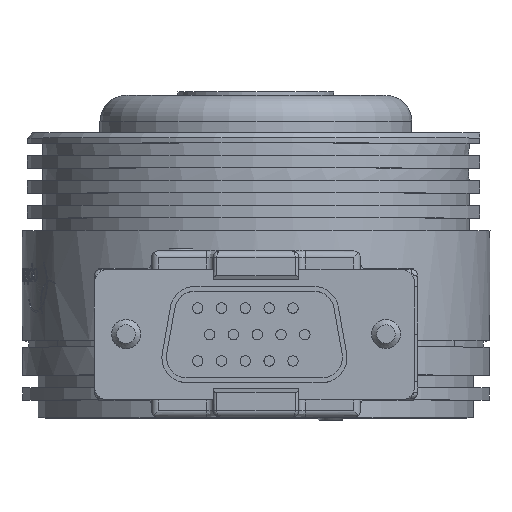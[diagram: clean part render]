
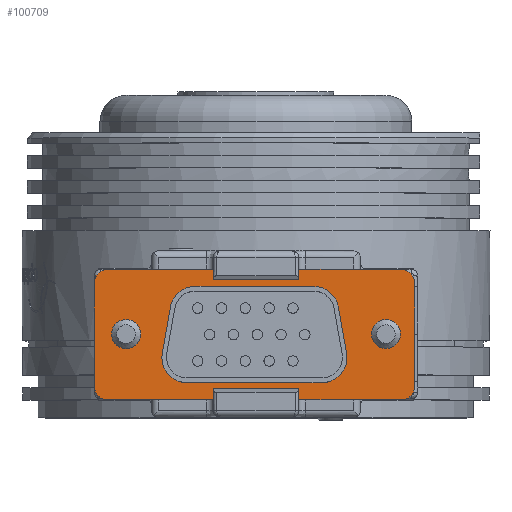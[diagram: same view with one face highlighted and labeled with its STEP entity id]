
A CAD part, top view. The second image highlights one B-rep face of the part: STEP entity #100709.
In plain terms, the highlighted planar face has unit normal (0, 0, 1).
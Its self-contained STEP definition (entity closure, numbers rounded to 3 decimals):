
#235 = VERTEX_POINT ( 'NONE', #101416 ) ;
#1914 = LINE ( 'NONE', #43533, #99622 ) ;
#2619 = CIRCLE ( 'NONE', #16414, 2.4 ) ;
#3777 = DIRECTION ( 'NONE',  ( 0., 0., -1. ) ) ;
#4313 = CIRCLE ( 'NONE', #26731, 1.3 ) ;
#4397 = LINE ( 'NONE', #70820, #27769 ) ;
#4622 = ORIENTED_EDGE ( 'NONE', *, *, #35129, .T. ) ;
#4883 = CARTESIAN_POINT ( 'NONE',  ( -15.405, -4.975, 0.8 ) ) ;
#5434 = DIRECTION ( 'NONE',  ( 0., 0., -1. ) ) ;
#5447 = CARTESIAN_POINT ( 'NONE',  ( 0., 6.275, 0.8 ) ) ;
#5982 = LINE ( 'NONE', #5447, #79830 ) ;
#6634 = VECTOR ( 'NONE', #73743, 1000. ) ;
#6979 = AXIS2_PLACEMENT_3D ( 'NONE', #91094, #106787, #73224 ) ;
#7829 = LINE ( 'NONE', #14857, #6634 ) ;
#9181 = CARTESIAN_POINT ( 'NONE',  ( 6.5, 2.22, 0.8 ) ) ;
#9986 = EDGE_CURVE ( 'NONE', #24621, #17582, #93156, .T. ) ;
#10227 = EDGE_CURVE ( 'NONE', #11348, #103076, #49943, .T. ) ;
#10448 = DIRECTION ( 'NONE',  ( 0., 1., 0. ) ) ;
#11066 = ORIENTED_EDGE ( 'NONE', *, *, #29441, .T. ) ;
#11348 = VERTEX_POINT ( 'NONE', #4883 ) ;
#11369 = CARTESIAN_POINT ( 'NONE',  ( 8.081, -2.637, 0.8 ) ) ;
#12911 = VERTEX_POINT ( 'NONE', #102959 ) ;
#14067 = VERTEX_POINT ( 'NONE', #11369 ) ;
#14857 = CARTESIAN_POINT ( 'NONE',  ( 0., 4.62, 0.8 ) ) ;
#16414 = AXIS2_PLACEMENT_3D ( 'NONE', #76803, #5434, #80532 ) ;
#17582 = VERTEX_POINT ( 'NONE', #34821 ) ;
#18145 = CARTESIAN_POINT ( 'NONE',  ( 15.405, 4.975, 0.8 ) ) ;
#19004 = DIRECTION ( 'NONE',  ( 0., 0., 1. ) ) ;
#20330 = VERTEX_POINT ( 'NONE', #39521 ) ;
#21964 = CARTESIAN_POINT ( 'NONE',  ( 14.105, 6.275, 0.8 ) ) ;
#23611 = DIRECTION ( 'NONE',  ( 1., 0., 0. ) ) ;
#23835 = LINE ( 'NONE', #89319, #77780 ) ;
#23884 = CARTESIAN_POINT ( 'NONE',  ( -14.105, 6.275, 0.8 ) ) ;
#24621 = VERTEX_POINT ( 'NONE', #74321 ) ;
#26731 = AXIS2_PLACEMENT_3D ( 'NONE', #98828, #39941, #23611 ) ;
#27769 = VECTOR ( 'NONE', #37423, 1000. ) ;
#28712 = CIRCLE ( 'NONE', #82254, 2.4 ) ;
#28835 = ORIENTED_EDGE ( 'NONE', *, *, #51290, .T. ) ;
#29441 = EDGE_CURVE ( 'NONE', #17582, #14067, #55203, .T. ) ;
#31104 = ORIENTED_EDGE ( 'NONE', *, *, #43229, .T. ) ;
#31389 = AXIS2_PLACEMENT_3D ( 'NONE', #86643, #64380, #31478 ) ;
#31478 = DIRECTION ( 'NONE',  ( 1., 0., 0. ) ) ;
#32205 = EDGE_LOOP ( 'NONE', ( #28835, #106957, #94168, #31104, #32381, #58300, #65775, #102983 ) ) ;
#32381 = ORIENTED_EDGE ( 'NONE', *, *, #93028, .T. ) ;
#33107 = VECTOR ( 'NONE', #54647, 1000. ) ;
#33825 = EDGE_CURVE ( 'NONE', #12911, #24621, #7829, .T. ) ;
#33864 = EDGE_CURVE ( 'NONE', #34971, #47396, #59149, .T. ) ;
#34821 = CARTESIAN_POINT ( 'NONE',  ( 8.864, 1.803, 0.8 ) ) ;
#34971 = VERTEX_POINT ( 'NONE', #86065 ) ;
#35129 = EDGE_CURVE ( 'NONE', #47396, #12911, #84598, .T. ) ;
#35589 = ORIENTED_EDGE ( 'NONE', *, *, #33825, .T. ) ;
#35849 = CIRCLE ( 'NONE', #72005, 1.3 ) ;
#36142 = VERTEX_POINT ( 'NONE', #23884 ) ;
#37423 = DIRECTION ( 'NONE',  ( -1., 0., 0. ) ) ;
#37463 = ORIENTED_EDGE ( 'NONE', *, *, #33864, .T. ) ;
#37774 = VERTEX_POINT ( 'NONE', #39012 ) ;
#38471 = DIRECTION ( 'NONE',  ( -1., 0., 0. ) ) ;
#38800 = EDGE_CURVE ( 'NONE', #20330, #11348, #23835, .T. ) ;
#39012 = CARTESIAN_POINT ( 'NONE',  ( 5.717, -4.62, 0.8 ) ) ;
#39521 = CARTESIAN_POINT ( 'NONE',  ( -15.405, 4.975, 0.8 ) ) ;
#39941 = DIRECTION ( 'NONE',  ( 0., 0., 1. ) ) ;
#40839 = CARTESIAN_POINT ( 'NONE',  ( -8.864, 1.803, 0.8 ) ) ;
#43161 = CARTESIAN_POINT ( 'NONE',  ( 14.105, -6.275, 0.8 ) ) ;
#43229 = EDGE_CURVE ( 'NONE', #103076, #72759, #1914, .T. ) ;
#43387 = CARTESIAN_POINT ( 'NONE',  ( 14.105, 4.975, 0.8 ) ) ;
#43533 = CARTESIAN_POINT ( 'NONE',  ( 0., -6.275, 0.8 ) ) ;
#44567 = ORIENTED_EDGE ( 'NONE', *, *, #100325, .T. ) ;
#46907 = DIRECTION ( 'NONE',  ( 1., 0., 0. ) ) ;
#47396 = VERTEX_POINT ( 'NONE', #40839 ) ;
#49943 = CIRCLE ( 'NONE', #84579, 1.3 ) ;
#50230 = ORIENTED_EDGE ( 'NONE', *, *, #67951, .T. ) ;
#51290 = EDGE_CURVE ( 'NONE', #36142, #20330, #4313, .T. ) ;
#52582 = DIRECTION ( 'NONE',  ( -0.174, 0.985, 0. ) ) ;
#54055 = CARTESIAN_POINT ( 'NONE',  ( -14.105, -6.275, 0.8 ) ) ;
#54647 = DIRECTION ( 'NONE',  ( -0.174, -0.985, 0. ) ) ;
#54927 = VECTOR ( 'NONE', #10448, 1000. ) ;
#54980 = CARTESIAN_POINT ( 'NONE',  ( -5.717, -4.62, 0.8 ) ) ;
#55203 = LINE ( 'NONE', #88255, #33107 ) ;
#56053 = VERTEX_POINT ( 'NONE', #21964 ) ;
#56598 = CARTESIAN_POINT ( 'NONE',  ( -14.105, -4.975, 0.8 ) ) ;
#57339 = CARTESIAN_POINT ( 'NONE',  ( -6.5, 2.22, 0.8 ) ) ;
#58300 = ORIENTED_EDGE ( 'NONE', *, *, #90111, .T. ) ;
#59149 = LINE ( 'NONE', #59678, #89543 ) ;
#59501 = EDGE_CURVE ( 'NONE', #56053, #36142, #5982, .T. ) ;
#59678 = CARTESIAN_POINT ( 'NONE',  ( -8.081, -2.637, 0.8 ) ) ;
#60289 = ORIENTED_EDGE ( 'NONE', *, *, #9986, .T. ) ;
#60732 = EDGE_CURVE ( 'NONE', #95160, #56053, #35849, .T. ) ;
#64380 = DIRECTION ( 'NONE',  ( 0., 0., 1. ) ) ;
#65775 = ORIENTED_EDGE ( 'NONE', *, *, #60732, .T. ) ;
#65957 = DIRECTION ( 'NONE',  ( 0., 0., -1. ) ) ;
#66531 = DIRECTION ( 'NONE',  ( 0., -1., 0. ) ) ;
#66897 = EDGE_CURVE ( 'NONE', #14067, #37774, #2619, .T. ) ;
#67951 = EDGE_CURVE ( 'NONE', #97494, #34971, #28712, .T. ) ;
#69032 = CIRCLE ( 'NONE', #6979, 1.3 ) ;
#70820 = CARTESIAN_POINT ( 'NONE',  ( 0., -4.62, 0.8 ) ) ;
#72005 = AXIS2_PLACEMENT_3D ( 'NONE', #43387, #19004, #75225 ) ;
#72759 = VERTEX_POINT ( 'NONE', #43161 ) ;
#73224 = DIRECTION ( 'NONE',  ( 1., 0., 0. ) ) ;
#73743 = DIRECTION ( 'NONE',  ( 1., 0., 0. ) ) ;
#73999 = DIRECTION ( 'NONE',  ( 1., 0., 0. ) ) ;
#74321 = CARTESIAN_POINT ( 'NONE',  ( 6.5, 4.62, 0.8 ) ) ;
#74751 = CARTESIAN_POINT ( 'NONE',  ( 15.405, 0., 0.8 ) ) ;
#75225 = DIRECTION ( 'NONE',  ( 1., 0., 0. ) ) ;
#76803 = CARTESIAN_POINT ( 'NONE',  ( 5.717, -2.22, 0.8 ) ) ;
#77780 = VECTOR ( 'NONE', #66531, 1000. ) ;
#79830 = VECTOR ( 'NONE', #38471, 1000. ) ;
#80532 = DIRECTION ( 'NONE',  ( 1., 0., 0. ) ) ;
#80632 = PLANE ( 'NONE',  #31389 ) ;
#82254 = AXIS2_PLACEMENT_3D ( 'NONE', #84898, #3777, #92480 ) ;
#84579 = AXIS2_PLACEMENT_3D ( 'NONE', #56598, #95613, #46907 ) ;
#84598 = CIRCLE ( 'NONE', #98423, 2.4 ) ;
#84898 = CARTESIAN_POINT ( 'NONE',  ( -5.717, -2.22, 0.8 ) ) ;
#85848 = EDGE_LOOP ( 'NONE', ( #90941, #44567, #50230, #37463, #4622, #35589, #60289, #11066 ) ) ;
#86065 = CARTESIAN_POINT ( 'NONE',  ( -8.081, -2.637, 0.8 ) ) ;
#86643 = CARTESIAN_POINT ( 'NONE',  ( 0., 0., 0.8 ) ) ;
#88255 = CARTESIAN_POINT ( 'NONE',  ( 8.864, 1.803, 0.8 ) ) ;
#89319 = CARTESIAN_POINT ( 'NONE',  ( -15.405, 0., 0.8 ) ) ;
#89543 = VECTOR ( 'NONE', #52582, 1000. ) ;
#90111 = EDGE_CURVE ( 'NONE', #235, #95160, #101277, .T. ) ;
#90814 = DIRECTION ( 'NONE',  ( 0., 0., -1. ) ) ;
#90877 = DIRECTION ( 'NONE',  ( 1., 0., 0. ) ) ;
#90941 = ORIENTED_EDGE ( 'NONE', *, *, #66897, .T. ) ;
#91094 = CARTESIAN_POINT ( 'NONE',  ( 14.105, -4.975, 0.8 ) ) ;
#92480 = DIRECTION ( 'NONE',  ( 1., 0., 0. ) ) ;
#93028 = EDGE_CURVE ( 'NONE', #72759, #235, #69032, .T. ) ;
#93156 = CIRCLE ( 'NONE', #106966, 2.4 ) ;
#94168 = ORIENTED_EDGE ( 'NONE', *, *, #10227, .T. ) ;
#95160 = VERTEX_POINT ( 'NONE', #18145 ) ;
#95613 = DIRECTION ( 'NONE',  ( 0., 0., 1. ) ) ;
#95830 = FACE_OUTER_BOUND ( 'NONE', #32205, .T. ) ;
#97494 = VERTEX_POINT ( 'NONE', #54980 ) ;
#98423 = AXIS2_PLACEMENT_3D ( 'NONE', #57339, #65957, #90877 ) ;
#98828 = CARTESIAN_POINT ( 'NONE',  ( -14.105, 4.975, 0.8 ) ) ;
#99622 = VECTOR ( 'NONE', #101389, 1000. ) ;
#100325 = EDGE_CURVE ( 'NONE', #37774, #97494, #4397, .T. ) ;
#100709 = ADVANCED_FACE ( 'NONE', ( #95830, #104471 ), #80632, .T. ) ;
#101277 = LINE ( 'NONE', #74751, #54927 ) ;
#101389 = DIRECTION ( 'NONE',  ( 1., 0., 0. ) ) ;
#101416 = CARTESIAN_POINT ( 'NONE',  ( 15.405, -4.975, 0.8 ) ) ;
#102959 = CARTESIAN_POINT ( 'NONE',  ( -6.5, 4.62, 0.8 ) ) ;
#102983 = ORIENTED_EDGE ( 'NONE', *, *, #59501, .T. ) ;
#103076 = VERTEX_POINT ( 'NONE', #54055 ) ;
#104471 = FACE_BOUND ( 'NONE', #85848, .T. ) ;
#106787 = DIRECTION ( 'NONE',  ( 0., 0., 1. ) ) ;
#106957 = ORIENTED_EDGE ( 'NONE', *, *, #38800, .T. ) ;
#106966 = AXIS2_PLACEMENT_3D ( 'NONE', #9181, #90814, #73999 ) ;
